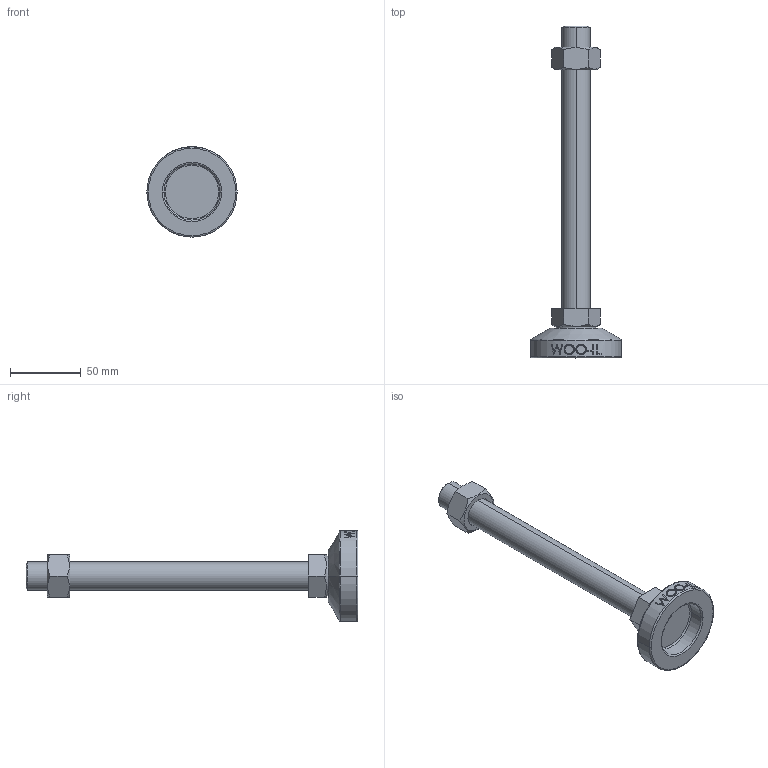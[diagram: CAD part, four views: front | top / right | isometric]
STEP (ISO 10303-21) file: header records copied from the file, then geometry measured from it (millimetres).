
FILE_DESCRIPTION (( 'STEP AP214' ), '1' );
FILE_NAME ('MFZ64-M20-200.step', '2021-01-15T07:07:19', ( '' ), ( '' ), 'SwSTEP 2.0', 'SolidWorks 2019', '' );
FILE_SCHEMA (( 'AUTOMOTIVE_DESIGN' ));
Length unit declared in the file: millimetre
Products named in the file (2): MFZ64-M20-200
Bounding box: 64 x 235 x 64 mm (x, y, z)
Volume: 124620.7 mm3; surface area: 29537.7 mm2
Topology: 3 solids, 3 shells, 106 faces, 247 edges, 158 vertices
Faces by surface type: plane 48, cylinder 18, bspline 16, cone 14, torus 10
Entity records: 4564 total; most frequent: CARTESIAN_POINT 2201, ORIENTED_EDGE 494, DIRECTION 439, EDGE_CURVE 247, AXIS2_PLACEMENT_3D 170, VERTEX_POINT 158, EDGE_LOOP 119, ADVANCED_FACE 106
